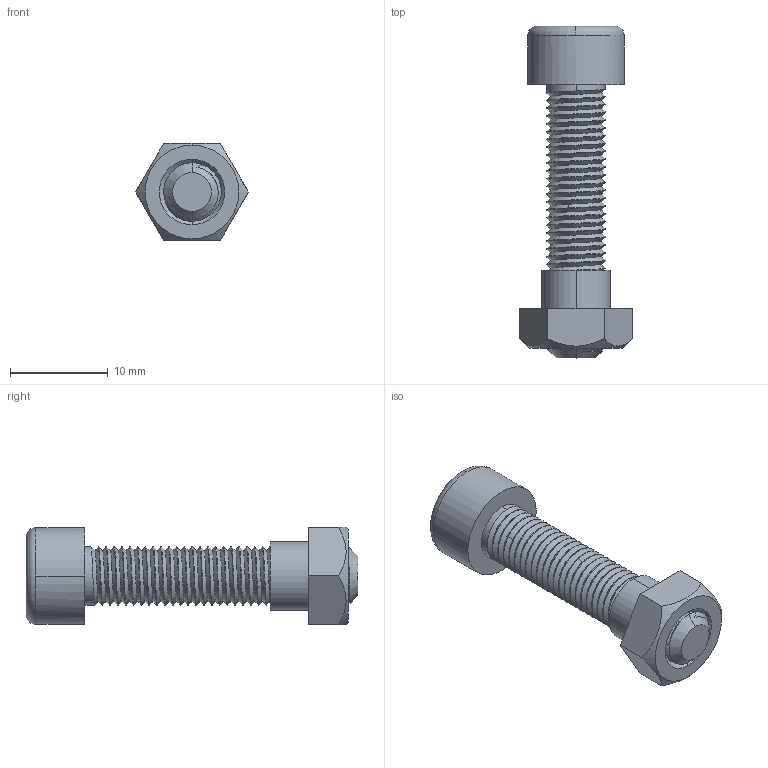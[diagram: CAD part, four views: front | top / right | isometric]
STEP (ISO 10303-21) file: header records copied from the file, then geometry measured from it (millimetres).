
FILE_DESCRIPTION((''),'2;1');
FILE_NAME('F--180_ASM','2021-06-01T08:13:31',('Administrator'),(''),'CREO PARAMETRIC BY PTC INC, 2019224','CREO PARAMETRIC BY PTC INC, 2019224','');
FILE_SCHEMA(('CONFIG_CONTROL_DESIGN'));
Length unit declared in the file: millimetre
Products named in the file (3): F-180-LS; F-180-28; F--180_ASM
Assembly tree (2 placements, depth 2):
  F--180_ASM
    F-180-LS
    F-180-28
Bounding box: 11.55 x 34 x 10 mm (x, y, z)
Volume: 1356.9 mm3; surface area: 1598.8 mm2
Topology: 2 solids, 2 shells, 151 faces, 412 edges, 268 vertices
Faces by surface type: cylinder 93, bspline 28, plane 20, cone 8, torus 2
Entity records: 11933 total; most frequent: CARTESIAN_POINT 8541, ORIENTED_EDGE 824, DIRECTION 469, EDGE_CURVE 412, VERTEX_POINT 268, B_SPLINE_CURVE_WITH_KNOTS 227, VECTOR 157, LINE 157
